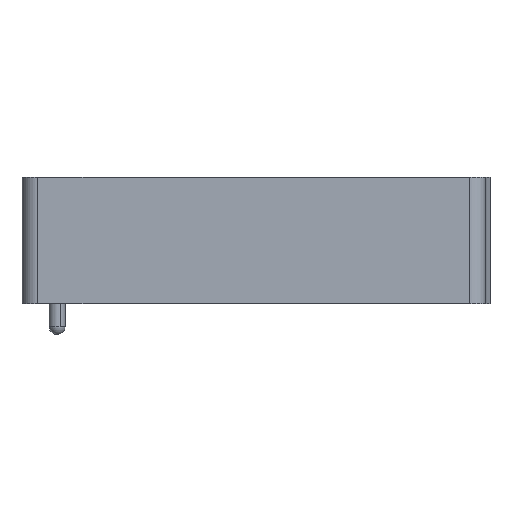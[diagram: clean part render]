
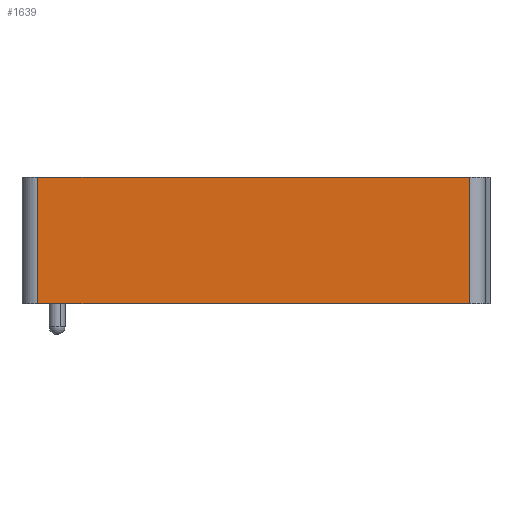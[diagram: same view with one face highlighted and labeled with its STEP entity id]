
A CAD part, left-side view. The second image highlights one B-rep face of the part: STEP entity #1639.
In plain terms, the highlighted planar face has unit normal (-1, 0, 0).
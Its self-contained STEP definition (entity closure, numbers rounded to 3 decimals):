
#27 = LINE ( 'NONE', #1566, #688 ) ;
#81 = DIRECTION ( 'NONE',  ( 0., 1., 0. ) ) ;
#156 = CARTESIAN_POINT ( 'NONE',  ( -14.5, -13.5, 41.012 ) ) ;
#173 = AXIS2_PLACEMENT_3D ( 'NONE', #2060, #3337, #877 ) ;
#190 = EDGE_LOOP ( 'NONE', ( #2226, #3317, #2489, #3176 ) ) ;
#325 = EDGE_CURVE ( 'NONE', #3790, #3305, #27, .T. ) ;
#358 = VECTOR ( 'NONE', #81, 1000. ) ;
#688 = VECTOR ( 'NONE', #2222, 1000. ) ;
#773 = CARTESIAN_POINT ( 'NONE',  ( -14.5, 13.5, 41.012 ) ) ;
#877 = DIRECTION ( 'NONE',  ( 0., 0., 1. ) ) ;
#1370 = DIRECTION ( 'NONE',  ( 0., 0., -1. ) ) ;
#1441 = VECTOR ( 'NONE', #1370, 1000. ) ;
#1481 = VERTEX_POINT ( 'NONE', #2903 ) ;
#1566 = CARTESIAN_POINT ( 'NONE',  ( -14.5, 13.5, 0. ) ) ;
#1622 = LINE ( 'NONE', #3833, #358 ) ;
#1639 = ADVANCED_FACE ( 'NONE', ( #2080 ), #3354, .T. ) ;
#1717 = DIRECTION ( 'NONE',  ( 0., 0., -1. ) ) ;
#2060 = CARTESIAN_POINT ( 'NONE',  ( -14.5, 13.5, 41.012 ) ) ;
#2080 = FACE_OUTER_BOUND ( 'NONE', #190, .T. ) ;
#2222 = DIRECTION ( 'NONE',  ( 0., 1., 0. ) ) ;
#2226 = ORIENTED_EDGE ( 'NONE', *, *, #3770, .F. ) ;
#2267 = EDGE_CURVE ( 'NONE', #1481, #3898, #1622, .T. ) ;
#2363 = LINE ( 'NONE', #156, #2491 ) ;
#2489 = ORIENTED_EDGE ( 'NONE', *, *, #3724, .T. ) ;
#2491 = VECTOR ( 'NONE', #1717, 1000. ) ;
#2903 = CARTESIAN_POINT ( 'NONE',  ( -14.5, -13.5, -7.9 ) ) ;
#3176 = ORIENTED_EDGE ( 'NONE', *, *, #2267, .F. ) ;
#3305 = VERTEX_POINT ( 'NONE', #3441 ) ;
#3317 = ORIENTED_EDGE ( 'NONE', *, *, #325, .T. ) ;
#3337 = DIRECTION ( 'NONE',  ( -1., 0., 0. ) ) ;
#3354 = PLANE ( 'NONE',  #173 ) ;
#3441 = CARTESIAN_POINT ( 'NONE',  ( -14.5, 13.5, 0. ) ) ;
#3724 = EDGE_CURVE ( 'NONE', #3305, #3898, #3849, .T. ) ;
#3770 = EDGE_CURVE ( 'NONE', #3790, #1481, #2363, .T. ) ;
#3790 = VERTEX_POINT ( 'NONE', #3912 ) ;
#3833 = CARTESIAN_POINT ( 'NONE',  ( -14.5, 13.5, -7.9 ) ) ;
#3849 = LINE ( 'NONE', #773, #1441 ) ;
#3898 = VERTEX_POINT ( 'NONE', #4008 ) ;
#3912 = CARTESIAN_POINT ( 'NONE',  ( -14.5, -13.5, 0. ) ) ;
#4008 = CARTESIAN_POINT ( 'NONE',  ( -14.5, 13.5, -7.9 ) ) ;
